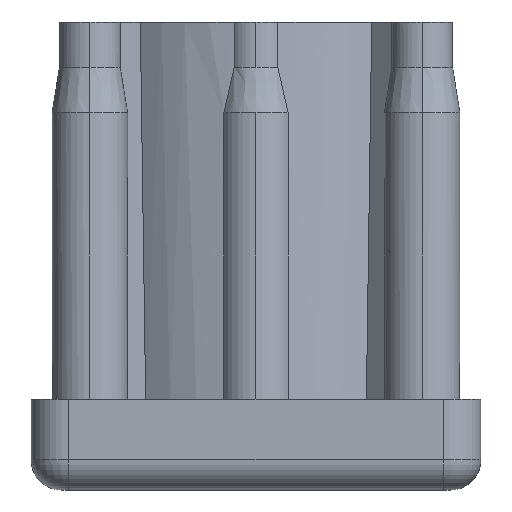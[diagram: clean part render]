
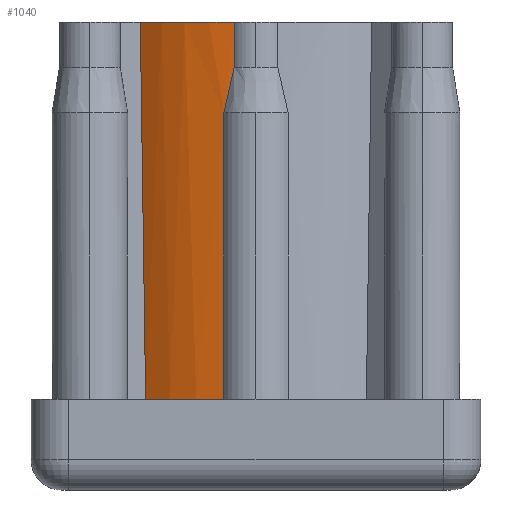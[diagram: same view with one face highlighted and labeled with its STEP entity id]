
A CAD part, left-side view. The second image highlights one B-rep face of the part: STEP entity #1040.
In plain terms, the highlighted cylindrical face has radius 12.5 mm (diameter 25 mm), a partial arc.
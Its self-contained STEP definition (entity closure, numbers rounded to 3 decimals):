
#32 = CARTESIAN_POINT ( 'NONE',  ( -9.965, 7.548, 16.646 ) ) ;
#53 = CARTESIAN_POINT ( 'NONE',  ( -10.139, 7.311, 0. ) ) ;
#79 = CARTESIAN_POINT ( 'NONE',  ( -12.318, 2.124, 19. ) ) ;
#93 = CARTESIAN_POINT ( 'NONE',  ( -12.392, 1.655, 21.171 ) ) ;
#251 = CARTESIAN_POINT ( 'NONE',  ( -10.139, 7.311, 0. ) ) ;
#311 = EDGE_CURVE ( 'NONE', #2430, #1677, #450, .T. ) ;
#354 = EDGE_CURVE ( 'NONE', #1177, #1936, #1124, .T. ) ;
#389 = CARTESIAN_POINT ( 'NONE',  ( -12.416, 1.447, 25. ) ) ;
#392 = EDGE_LOOP ( 'NONE', ( #1400, #2643, #2006, #1088, #535, #1098 ) ) ;
#450 = CIRCLE ( 'NONE', #1283, 12.5 ) ;
#464 = CARTESIAN_POINT ( 'NONE',  ( -12.416, 1.447, 22. ) ) ;
#489 = VECTOR ( 'NONE', #1762, 1000. ) ;
#535 = ORIENTED_EDGE ( 'NONE', *, *, #1526, .F. ) ;
#565 = EDGE_CURVE ( 'NONE', #1049, #1936, #1785, .T. ) ;
#735 = LINE ( 'NONE', #2331, #1953 ) ;
#851 = DIRECTION ( 'NONE',  ( 0., 0., -1. ) ) ;
#948 = CARTESIAN_POINT ( 'NONE',  ( 0., 0., 25. ) ) ;
#1040 = ADVANCED_FACE ( 'NONE', ( #3081 ), #2189, .T. ) ;
#1049 = VERTEX_POINT ( 'NONE', #2638 ) ;
#1088 = ORIENTED_EDGE ( 'NONE', *, *, #311, .F. ) ;
#1098 = ORIENTED_EDGE ( 'NONE', *, *, #354, .T. ) ;
#1124 = CIRCLE ( 'NONE', #2310, 12.5 ) ;
#1173 = DIRECTION ( 'NONE',  ( -1., 0., 0. ) ) ;
#1177 = VERTEX_POINT ( 'NONE', #251 ) ;
#1196 = DIRECTION ( 'NONE',  ( 1., 0., 0. ) ) ;
#1239 = DIRECTION ( 'NONE',  ( 0., 0., 1. ) ) ;
#1244 = CARTESIAN_POINT ( 'NONE',  ( -12.318, 2.124, 9.5 ) ) ;
#1283 = AXIS2_PLACEMENT_3D ( 'NONE', #1733, #2180, #2452 ) ;
#1290 = CARTESIAN_POINT ( 'NONE',  ( -12.36, 1.88, 20.171 ) ) ;
#1356 =( BOUNDED_CURVE ( )  B_SPLINE_CURVE ( 3, ( #53, #2736, #32, #1731 ),
 .UNSPECIFIED., .F., .T. ) 
 B_SPLINE_CURVE_WITH_KNOTS ( ( 4, 4 ),
 ( -1., 0. ),
 .UNSPECIFIED. ) 
 CURVE ( )  GEOMETRIC_REPRESENTATION_ITEM ( )  RATIONAL_B_SPLINE_CURVE ( ( 1., 1., 1., 1. ) ) 
 REPRESENTATION_ITEM ( '' )  );
#1400 = ORIENTED_EDGE ( 'NONE', *, *, #565, .F. ) ;
#1526 = EDGE_CURVE ( 'NONE', #1177, #2430, #1356, .T. ) ;
#1533 = AXIS2_PLACEMENT_3D ( 'NONE', #948, #2627, #1173 ) ;
#1677 = VERTEX_POINT ( 'NONE', #389 ) ;
#1731 = CARTESIAN_POINT ( 'NONE',  ( -9.875, 7.664, 25. ) ) ;
#1733 = CARTESIAN_POINT ( 'NONE',  ( 0., 0., 25. ) ) ;
#1762 = DIRECTION ( 'NONE',  ( 0., 0., -1. ) ) ;
#1785 = LINE ( 'NONE', #1244, #489 ) ;
#1936 = VERTEX_POINT ( 'NONE', #2358 ) ;
#1953 = VECTOR ( 'NONE', #851, 1000. ) ;
#2006 = ORIENTED_EDGE ( 'NONE', *, *, #2299, .F. ) ;
#2021 = CARTESIAN_POINT ( 'NONE',  ( -12.416, 1.447, 22. ) ) ;
#2180 = DIRECTION ( 'NONE',  ( 0., 0., 1. ) ) ;
#2189 = CYLINDRICAL_SURFACE ( 'NONE', #1533, 12.5 ) ;
#2299 = EDGE_CURVE ( 'NONE', #1677, #2340, #735, .T. ) ;
#2310 = AXIS2_PLACEMENT_3D ( 'NONE', #2653, #1239, #1196 ) ;
#2331 = CARTESIAN_POINT ( 'NONE',  ( -12.416, 1.447, 23.5 ) ) ;
#2340 = VERTEX_POINT ( 'NONE', #464 ) ;
#2358 = CARTESIAN_POINT ( 'NONE',  ( -12.318, 2.124, 0. ) ) ;
#2430 = VERTEX_POINT ( 'NONE', #2789 ) ;
#2452 = DIRECTION ( 'NONE',  ( 1., 0., 0. ) ) ;
#2627 = DIRECTION ( 'NONE',  ( 0., 0., -1. ) ) ;
#2638 = CARTESIAN_POINT ( 'NONE',  ( -12.318, 2.124, 19. ) ) ;
#2643 = ORIENTED_EDGE ( 'NONE', *, *, #2968, .F. ) ;
#2653 = CARTESIAN_POINT ( 'NONE',  ( 0., 0., 0. ) ) ;
#2736 = CARTESIAN_POINT ( 'NONE',  ( -10.053, 7.43, 8.312 ) ) ;
#2789 = CARTESIAN_POINT ( 'NONE',  ( -9.875, 7.664, 25. ) ) ;
#2968 = EDGE_CURVE ( 'NONE', #2340, #1049, #3101, .T. ) ;
#3081 = FACE_OUTER_BOUND ( 'NONE', #392, .T. ) ;
#3101 = B_SPLINE_CURVE_WITH_KNOTS ( 'NONE', 3,
 ( #2021, #93, #1290, #79 ),
 .UNSPECIFIED., .F., .F.,
 ( 4, 4 ),
 ( 0., 1. ),
 .UNSPECIFIED. ) ;
